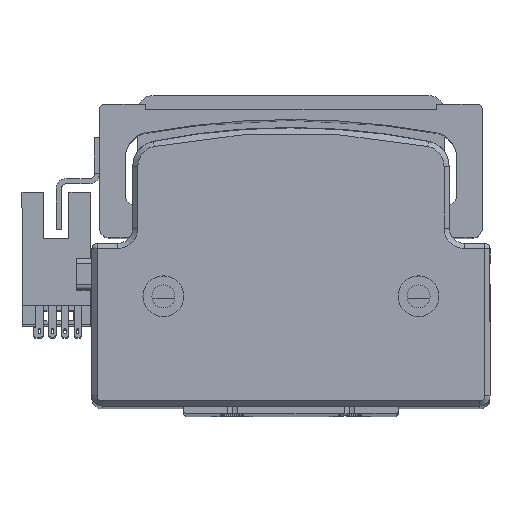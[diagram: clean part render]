
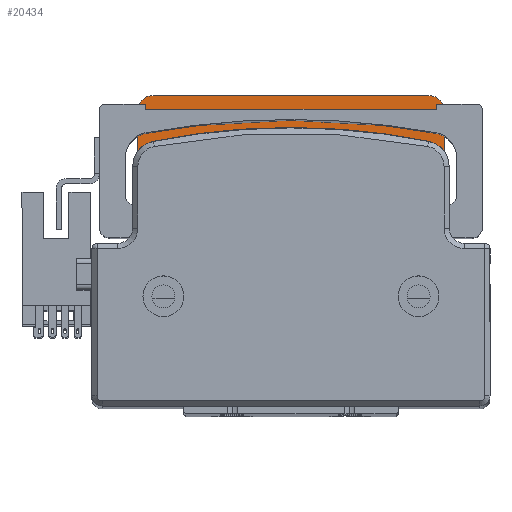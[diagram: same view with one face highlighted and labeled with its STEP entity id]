
A CAD part, top view. The second image highlights one B-rep face of the part: STEP entity #20434.
In plain terms, the highlighted planar face has unit normal (0, 0, 1) as drawn and (0, 0, -1) by its records, which use the part's own axes.
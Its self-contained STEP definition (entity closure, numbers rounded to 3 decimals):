
#75 = CARTESIAN_POINT ( 'NONE',  ( 19., 17., 44. ) ) ;
#131 = AXIS2_PLACEMENT_3D ( 'NONE', #10002, #34422, #13512 ) ;
#376 = DIRECTION ( 'NONE',  ( 1., 0., 0. ) ) ;
#661 = CARTESIAN_POINT ( 'NONE',  ( -26.399, 24.749, 44. ) ) ;
#1251 = EDGE_CURVE ( 'NONE', #39338, #23256, #35784, .T. ) ;
#1699 = AXIS2_PLACEMENT_3D ( 'NONE', #18444, #42858, #21936 ) ;
#1801 = CIRCLE ( 'NONE', #42160, 19. ) ;
#1882 = EDGE_CURVE ( 'NONE', #39851, #18315, #8419, .T. ) ;
#2139 = ORIENTED_EDGE ( 'NONE', *, *, #42784, .F. ) ;
#3083 = ORIENTED_EDGE ( 'NONE', *, *, #39698, .T. ) ;
#4285 = CARTESIAN_POINT ( 'NONE',  ( 30., 27., 44. ) ) ;
#4545 = EDGE_LOOP ( 'NONE', ( #10698, #33246 ) ) ;
#5040 = ORIENTED_EDGE ( 'NONE', *, *, #35881, .F. ) ;
#5117 = EDGE_CURVE ( 'NONE', #40799, #28508, #32728, .T. ) ;
#5546 = DIRECTION ( 'NONE',  ( 0., 0., -1. ) ) ;
#6169 = CARTESIAN_POINT ( 'NONE',  ( -30., 27., 44. ) ) ;
#6329 = CIRCLE ( 'NONE', #12124, 3. ) ;
#6356 = ORIENTED_EDGE ( 'NONE', *, *, #29441, .T. ) ;
#6535 = PLANE ( 'NONE',  #6885 ) ;
#6581 = DIRECTION ( 'NONE',  ( 0., 0., -1. ) ) ;
#6646 = DIRECTION ( 'NONE',  ( 1., 0., 0. ) ) ;
#6724 = AXIS2_PLACEMENT_3D ( 'NONE', #27541, #6581, #31048 ) ;
#6885 = AXIS2_PLACEMENT_3D ( 'NONE', #41575, #20647, #45057 ) ;
#6906 = DIRECTION ( 'NONE',  ( 1., 0., 0. ) ) ;
#7523 = VERTEX_POINT ( 'NONE', #23485 ) ;
#7721 = EDGE_CURVE ( 'NONE', #21813, #30270, #8901, .T. ) ;
#7743 = VECTOR ( 'NONE', #6906, 1000. ) ;
#8111 = CARTESIAN_POINT ( 'NONE',  ( -27., 14., 44. ) ) ;
#8407 = CARTESIAN_POINT ( 'NONE',  ( 27., 17., 44. ) ) ;
#8419 = CIRCLE ( 'NONE', #26699, 1.65 ) ;
#8901 = LINE ( 'NONE', #38418, #7743 ) ;
#9676 = CARTESIAN_POINT ( 'NONE',  ( 26.399, 24.749, 44. ) ) ;
#10002 = CARTESIAN_POINT ( 'NONE',  ( 27., 14., 44. ) ) ;
#10022 = CIRCLE ( 'NONE', #131, 3. ) ;
#10068 = CARTESIAN_POINT ( 'NONE',  ( -23.099, 24.749, 44. ) ) ;
#10526 = VECTOR ( 'NONE', #41000, 1000. ) ;
#10698 = ORIENTED_EDGE ( 'NONE', *, *, #13217, .F. ) ;
#10868 = ORIENTED_EDGE ( 'NONE', *, *, #42905, .T. ) ;
#11638 = DIRECTION ( 'NONE',  ( -1., 0., 0. ) ) ;
#12124 = AXIS2_PLACEMENT_3D ( 'NONE', #17735, #42150, #21236 ) ;
#12405 = FACE_OUTER_BOUND ( 'NONE', #19703, .T. ) ;
#12706 = ORIENTED_EDGE ( 'NONE', *, *, #31177, .T. ) ;
#13026 = VERTEX_POINT ( 'NONE', #13554 ) ;
#13070 = LINE ( 'NONE', #45018, #29444 ) ;
#13217 = EDGE_CURVE ( 'NONE', #18315, #39851, #38859, .T. ) ;
#13280 = VERTEX_POINT ( 'NONE', #18599 ) ;
#13475 = CARTESIAN_POINT ( 'NONE',  ( -30., -30., 44. ) ) ;
#13493 = CIRCLE ( 'NONE', #22286, 3. ) ;
#13512 = DIRECTION ( 'NONE',  ( -1., 0., 0. ) ) ;
#13554 = CARTESIAN_POINT ( 'NONE',  ( -27., 30., 44. ) ) ;
#13704 = CARTESIAN_POINT ( 'NONE',  ( 30., -30., 44. ) ) ;
#14010 = CARTESIAN_POINT ( 'NONE',  ( 0., 0., 44. ) ) ;
#14513 = CARTESIAN_POINT ( 'NONE',  ( 24.749, 24.749, 44. ) ) ;
#15251 = ORIENTED_EDGE ( 'NONE', *, *, #1251, .F. ) ;
#15264 = VECTOR ( 'NONE', #17974, 1000. ) ;
#15648 = AXIS2_PLACEMENT_3D ( 'NONE', #14513, #38938, #18033 ) ;
#16564 = CARTESIAN_POINT ( 'NONE',  ( -19., 30., 44. ) ) ;
#17140 = VERTEX_POINT ( 'NONE', #6169 ) ;
#17535 = DIRECTION ( 'NONE',  ( -1., 0., 0. ) ) ;
#17735 = CARTESIAN_POINT ( 'NONE',  ( 27., 27., 44. ) ) ;
#17818 = CARTESIAN_POINT ( 'NONE',  ( -24.749, 24.749, 44. ) ) ;
#17921 = CIRCLE ( 'NONE', #15648, 1.65 ) ;
#17974 = DIRECTION ( 'NONE',  ( 0., -1., 0. ) ) ;
#18033 = DIRECTION ( 'NONE',  ( 1., 0., 0. ) ) ;
#18315 = VERTEX_POINT ( 'NONE', #10068 ) ;
#18409 = CARTESIAN_POINT ( 'NONE',  ( 19., 0., 44. ) ) ;
#18444 = CARTESIAN_POINT ( 'NONE',  ( -24.749, 24.749, 44. ) ) ;
#18599 = CARTESIAN_POINT ( 'NONE',  ( 23.099, 24.749, 44. ) ) ;
#19358 = VERTEX_POINT ( 'NONE', #34916 ) ;
#19703 = EDGE_LOOP ( 'NONE', ( #26352, #44223, #12706, #5040, #10868, #42253, #3083, #15251, #6356, #21556, #19877, #33855 ) ) ;
#19876 = LINE ( 'NONE', #16564, #10526 ) ;
#19877 = ORIENTED_EDGE ( 'NONE', *, *, #5117, .T. ) ;
#20179 = CARTESIAN_POINT ( 'NONE',  ( -19., 17., 44. ) ) ;
#20434 = ADVANCED_FACE ( 'NONE', ( #12405, #39157, #30971 ), #6535, .T. ) ;
#20577 = LINE ( 'NONE', #13475, #29849 ) ;
#20647 = DIRECTION ( 'NONE',  ( 0., 0., -1. ) ) ;
#21236 = DIRECTION ( 'NONE',  ( 1., 0., 0. ) ) ;
#21323 = DIRECTION ( 'NONE',  ( 1., 0., 0. ) ) ;
#21425 = CARTESIAN_POINT ( 'NONE',  ( -39.764, 17., 44. ) ) ;
#21556 = ORIENTED_EDGE ( 'NONE', *, *, #36496, .F. ) ;
#21795 = VERTEX_POINT ( 'NONE', #9676 ) ;
#21813 = VERTEX_POINT ( 'NONE', #27226 ) ;
#21936 = DIRECTION ( 'NONE',  ( 1., 0., 0. ) ) ;
#22286 = AXIS2_PLACEMENT_3D ( 'NONE', #8111, #32589, #11638 ) ;
#23256 = VERTEX_POINT ( 'NONE', #4285 ) ;
#23485 = CARTESIAN_POINT ( 'NONE',  ( 27., 30., 44. ) ) ;
#23991 = ORIENTED_EDGE ( 'NONE', *, *, #25370, .F. ) ;
#24267 = DIRECTION ( 'NONE',  ( 0., 1., 0. ) ) ;
#25370 = EDGE_CURVE ( 'NONE', #13280, #21795, #17921, .T. ) ;
#26352 = ORIENTED_EDGE ( 'NONE', *, *, #43790, .T. ) ;
#26511 = VECTOR ( 'NONE', #24267, 1000. ) ;
#26514 = CARTESIAN_POINT ( 'NONE',  ( 24.749, 24.749, 44. ) ) ;
#26699 = AXIS2_PLACEMENT_3D ( 'NONE', #17818, #42238, #21323 ) ;
#27226 = CARTESIAN_POINT ( 'NONE',  ( -27., 17., 44. ) ) ;
#27541 = CARTESIAN_POINT ( 'NONE',  ( -27., 27., 44. ) ) ;
#28508 = VERTEX_POINT ( 'NONE', #18409 ) ;
#29441 = EDGE_CURVE ( 'NONE', #39338, #33076, #10022, .T. ) ;
#29444 = VECTOR ( 'NONE', #6646, 1000. ) ;
#29849 = VECTOR ( 'NONE', #41447, 1000. ) ;
#30012 = DIRECTION ( 'NONE',  ( 1., 0., 0. ) ) ;
#30270 = VERTEX_POINT ( 'NONE', #20179 ) ;
#30338 = EDGE_CURVE ( 'NONE', #13026, #7523, #13070, .T. ) ;
#30971 = FACE_BOUND ( 'NONE', #41281, .T. ) ;
#31048 = DIRECTION ( 'NONE',  ( 1., 0., 0. ) ) ;
#31177 = EDGE_CURVE ( 'NONE', #21813, #37668, #13493, .T. ) ;
#31360 = CIRCLE ( 'NONE', #36640, 1.65 ) ;
#32589 = DIRECTION ( 'NONE',  ( 0., 0., 1. ) ) ;
#32728 = LINE ( 'NONE', #42406, #15264 ) ;
#33076 = VERTEX_POINT ( 'NONE', #8407 ) ;
#33246 = ORIENTED_EDGE ( 'NONE', *, *, #1882, .F. ) ;
#33855 = ORIENTED_EDGE ( 'NONE', *, *, #42633, .T. ) ;
#34117 = VECTOR ( 'NONE', #376, 1000. ) ;
#34422 = DIRECTION ( 'NONE',  ( 0., 0., 1. ) ) ;
#34916 = CARTESIAN_POINT ( 'NONE',  ( -19., 0., 44. ) ) ;
#35204 = LINE ( 'NONE', #21425, #34117 ) ;
#35784 = LINE ( 'NONE', #13704, #26511 ) ;
#35881 = EDGE_CURVE ( 'NONE', #17140, #37668, #20577, .T. ) ;
#36496 = EDGE_CURVE ( 'NONE', #40799, #33076, #35204, .T. ) ;
#36640 = AXIS2_PLACEMENT_3D ( 'NONE', #26514, #5546, #30012 ) ;
#37668 = VERTEX_POINT ( 'NONE', #45093 ) ;
#38418 = CARTESIAN_POINT ( 'NONE',  ( -39.764, 17., 44. ) ) ;
#38450 = DIRECTION ( 'NONE',  ( 0., 0., 1. ) ) ;
#38859 = CIRCLE ( 'NONE', #1699, 1.65 ) ;
#38938 = DIRECTION ( 'NONE',  ( 0., 0., -1. ) ) ;
#39157 = FACE_BOUND ( 'NONE', #4545, .T. ) ;
#39338 = VERTEX_POINT ( 'NONE', #43258 ) ;
#39698 = EDGE_CURVE ( 'NONE', #7523, #23256, #6329, .T. ) ;
#39851 = VERTEX_POINT ( 'NONE', #661 ) ;
#40799 = VERTEX_POINT ( 'NONE', #75 ) ;
#41000 = DIRECTION ( 'NONE',  ( 0., 1., 0. ) ) ;
#41281 = EDGE_LOOP ( 'NONE', ( #2139, #23991 ) ) ;
#41447 = DIRECTION ( 'NONE',  ( 0., -1., 0. ) ) ;
#41575 = CARTESIAN_POINT ( 'NONE',  ( 19., -30., 44. ) ) ;
#41747 = CIRCLE ( 'NONE', #6724, 3. ) ;
#42150 = DIRECTION ( 'NONE',  ( 0., 0., -1. ) ) ;
#42160 = AXIS2_PLACEMENT_3D ( 'NONE', #14010, #38450, #17535 ) ;
#42238 = DIRECTION ( 'NONE',  ( 0., 0., -1. ) ) ;
#42253 = ORIENTED_EDGE ( 'NONE', *, *, #30338, .T. ) ;
#42406 = CARTESIAN_POINT ( 'NONE',  ( 19., 30., 44. ) ) ;
#42633 = EDGE_CURVE ( 'NONE', #28508, #19358, #1801, .T. ) ;
#42784 = EDGE_CURVE ( 'NONE', #21795, #13280, #31360, .T. ) ;
#42858 = DIRECTION ( 'NONE',  ( 0., 0., -1. ) ) ;
#42905 = EDGE_CURVE ( 'NONE', #17140, #13026, #41747, .T. ) ;
#43258 = CARTESIAN_POINT ( 'NONE',  ( 30., 14., 44. ) ) ;
#43790 = EDGE_CURVE ( 'NONE', #19358, #30270, #19876, .T. ) ;
#44223 = ORIENTED_EDGE ( 'NONE', *, *, #7721, .F. ) ;
#45018 = CARTESIAN_POINT ( 'NONE',  ( 19., 30., 44. ) ) ;
#45057 = DIRECTION ( 'NONE',  ( -1., 0., 0. ) ) ;
#45093 = CARTESIAN_POINT ( 'NONE',  ( -30., 14., 44. ) ) ;
